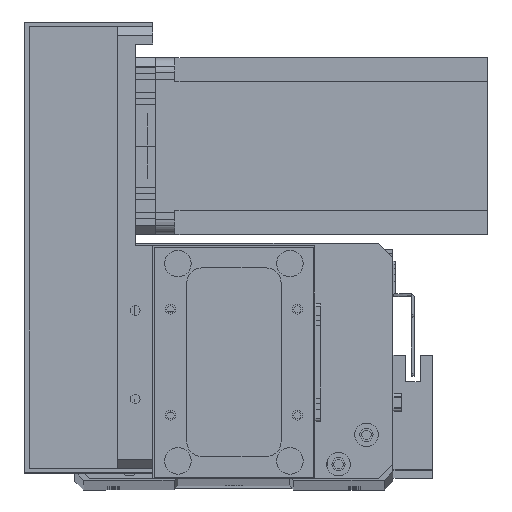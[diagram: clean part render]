
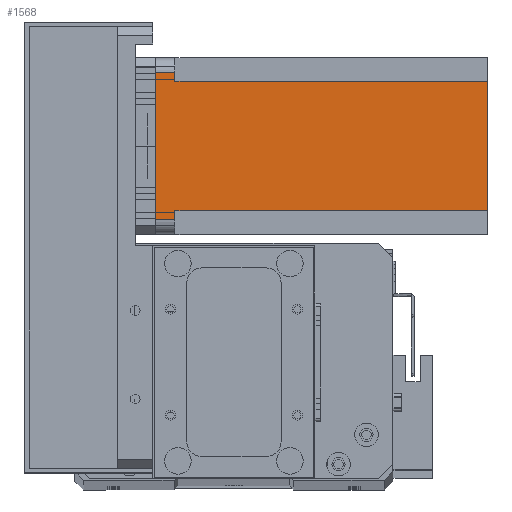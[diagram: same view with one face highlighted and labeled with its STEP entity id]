
A CAD part, top view. The second image highlights one B-rep face of the part: STEP entity #1568.
In plain terms, the highlighted planar face has unit normal (0, 0, 1) as drawn and (0, -1, 0) by its records, which use the part's own axes.
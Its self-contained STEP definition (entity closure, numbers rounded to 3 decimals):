
#14 = VECTOR ( 'NONE', #18060, 1000. ) ;
#63 = VERTEX_POINT ( 'NONE', #11062 ) ;
#103 = CARTESIAN_POINT ( 'NONE',  ( 8., 0., -112.5 ) ) ;
#439 = EDGE_CURVE ( 'NONE', #32348, #22069, #24632, .T. ) ;
#1362 = DIRECTION ( 'NONE',  ( 0., -1., 0. ) ) ;
#1469 = VECTOR ( 'NONE', #26932, 1000. ) ;
#1529 = DIRECTION ( 'NONE',  ( 1., 0., 0. ) ) ;
#1568 = ADVANCED_FACE ( 'NONE', ( #29567 ), #31445, .T. ) ;
#2268 = LINE ( 'NONE', #11960, #1469 ) ;
#2729 = DIRECTION ( 'NONE',  ( 0., 0., 1. ) ) ;
#3247 = CARTESIAN_POINT ( 'NONE',  ( 52., 0., -112.5 ) ) ;
#4362 = ORIENTED_EDGE ( 'NONE', *, *, #32506, .T. ) ;
#5479 = CARTESIAN_POINT ( 'NONE',  ( 55., 0., 0. ) ) ;
#7161 = CARTESIAN_POINT ( 'NONE',  ( 55., 0., -112.5 ) ) ;
#7436 = CARTESIAN_POINT ( 'NONE',  ( 8., 0., -6.5 ) ) ;
#8283 = VECTOR ( 'NONE', #27871, 1000. ) ;
#8845 = CARTESIAN_POINT ( 'NONE',  ( 52., 0., -6.5 ) ) ;
#10600 = LINE ( 'NONE', #103, #23108 ) ;
#11062 = CARTESIAN_POINT ( 'NONE',  ( 5., 0., -6.5 ) ) ;
#11124 = CARTESIAN_POINT ( 'NONE',  ( 8., 0., -112.5 ) ) ;
#11327 = VECTOR ( 'NONE', #13322, 1000. ) ;
#11382 = VERTEX_POINT ( 'NONE', #27914 ) ;
#11422 = CARTESIAN_POINT ( 'NONE',  ( 8., 0., -6.5 ) ) ;
#11504 = AXIS2_PLACEMENT_3D ( 'NONE', #16570, #1362, #11542 ) ;
#11542 = DIRECTION ( 'NONE',  ( 0., 0., -1. ) ) ;
#11960 = CARTESIAN_POINT ( 'NONE',  ( 52., 0., -6.5 ) ) ;
#13322 = DIRECTION ( 'NONE',  ( 1., 0., 0. ) ) ;
#13853 = VERTEX_POINT ( 'NONE', #11124 ) ;
#14255 = EDGE_CURVE ( 'NONE', #24952, #26593, #14956, .T. ) ;
#14915 = LINE ( 'NONE', #7161, #27386 ) ;
#14956 = LINE ( 'NONE', #25442, #8283 ) ;
#15007 = ORIENTED_EDGE ( 'NONE', *, *, #439, .F. ) ;
#15559 = CARTESIAN_POINT ( 'NONE',  ( 5., 0., -112.5 ) ) ;
#15920 = EDGE_CURVE ( 'NONE', #13853, #26593, #29261, .T. ) ;
#16570 = CARTESIAN_POINT ( 'NONE',  ( 0., 0., -112.5 ) ) ;
#17881 = ORIENTED_EDGE ( 'NONE', *, *, #27592, .T. ) ;
#18060 = DIRECTION ( 'NONE',  ( 0., 0., -1. ) ) ;
#18309 = ORIENTED_EDGE ( 'NONE', *, *, #20943, .F. ) ;
#20515 = CARTESIAN_POINT ( 'NONE',  ( 0., 0., 0. ) ) ;
#20943 = EDGE_CURVE ( 'NONE', #13853, #32393, #10600, .T. ) ;
#21569 = CARTESIAN_POINT ( 'NONE',  ( 0., 0., -112.5 ) ) ;
#22069 = VERTEX_POINT ( 'NONE', #5479 ) ;
#22409 = DIRECTION ( 'NONE',  ( -1., 0., 0. ) ) ;
#22506 = DIRECTION ( 'NONE',  ( 0., 0., 1. ) ) ;
#22588 = EDGE_CURVE ( 'NONE', #32393, #63, #29648, .T. ) ;
#22642 = VECTOR ( 'NONE', #1529, 1000. ) ;
#23052 = VECTOR ( 'NONE', #22409, 1000. ) ;
#23108 = VECTOR ( 'NONE', #2729, 1000. ) ;
#24632 = LINE ( 'NONE', #20515, #11327 ) ;
#24952 = VERTEX_POINT ( 'NONE', #8845 ) ;
#25442 = CARTESIAN_POINT ( 'NONE',  ( 52., 0., -112.5 ) ) ;
#25482 = ORIENTED_EDGE ( 'NONE', *, *, #14255, .F. ) ;
#25784 = ORIENTED_EDGE ( 'NONE', *, *, #22588, .F. ) ;
#25924 = ORIENTED_EDGE ( 'NONE', *, *, #15920, .T. ) ;
#25973 = EDGE_CURVE ( 'NONE', #32348, #63, #26832, .T. ) ;
#26593 = VERTEX_POINT ( 'NONE', #3247 ) ;
#26832 = LINE ( 'NONE', #15559, #14 ) ;
#26932 = DIRECTION ( 'NONE',  ( 1., 0., 0. ) ) ;
#27386 = VECTOR ( 'NONE', #22506, 1000. ) ;
#27592 = EDGE_CURVE ( 'NONE', #11382, #22069, #14915, .T. ) ;
#27871 = DIRECTION ( 'NONE',  ( 0., 0., -1. ) ) ;
#27914 = CARTESIAN_POINT ( 'NONE',  ( 55., 0., -6.5 ) ) ;
#28744 = CARTESIAN_POINT ( 'NONE',  ( 5., 0., 0. ) ) ;
#29261 = LINE ( 'NONE', #21569, #22642 ) ;
#29567 = FACE_OUTER_BOUND ( 'NONE', #31339, .T. ) ;
#29648 = LINE ( 'NONE', #7436, #23052 ) ;
#31339 = EDGE_LOOP ( 'NONE', ( #4362, #17881, #15007, #32415, #25784, #18309, #25924, #25482 ) ) ;
#31445 = PLANE ( 'NONE',  #11504 ) ;
#32348 = VERTEX_POINT ( 'NONE', #28744 ) ;
#32393 = VERTEX_POINT ( 'NONE', #11422 ) ;
#32415 = ORIENTED_EDGE ( 'NONE', *, *, #25973, .T. ) ;
#32506 = EDGE_CURVE ( 'NONE', #24952, #11382, #2268, .T. ) ;
